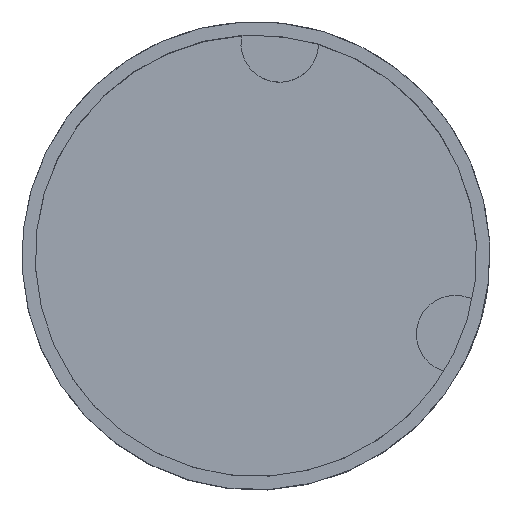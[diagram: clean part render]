
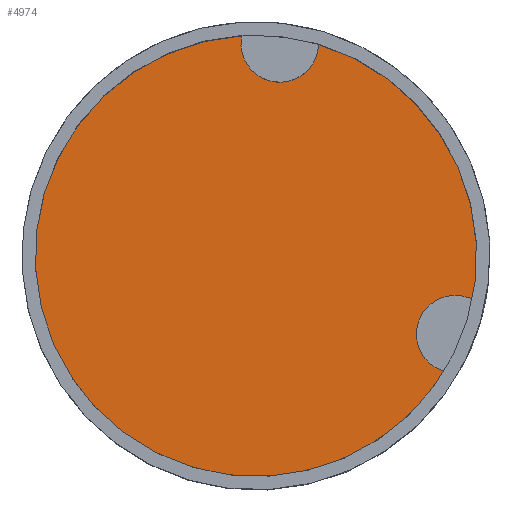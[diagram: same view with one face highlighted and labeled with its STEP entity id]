
A CAD part, top view. The second image highlights one B-rep face of the part: STEP entity #4974.
In plain terms, the highlighted planar face has unit normal (0, 0, 1) as drawn and (0, 0, -1) by its records, which use the part's own axes.
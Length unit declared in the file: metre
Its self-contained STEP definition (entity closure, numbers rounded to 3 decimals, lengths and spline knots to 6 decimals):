
#53 = VECTOR ( 'NONE', #2852, 1. ) ;
#65 = DIRECTION ( 'NONE',  ( 0., -1., 0. ) ) ;
#91 = DIRECTION ( 'NONE',  ( -0.966, -0.259, 0. ) ) ;
#116 = CARTESIAN_POINT ( 'NONE',  ( 0.0029, 0.016122, 0.0162 ) ) ;
#188 = VERTEX_POINT ( 'NONE', #2696 ) ;
#232 = ORIENTED_EDGE ( 'NONE', *, *, #4447, .F. ) ;
#291 = CARTESIAN_POINT ( 'NONE',  ( 0.0029, 0.016243, 0.0162 ) ) ;
#336 = EDGE_CURVE ( 'NONE', #1648, #1957, #2297, .T. ) ;
#416 = EDGE_CURVE ( 'NONE', #2931, #4948, #2784, .T. ) ;
#424 = VECTOR ( 'NONE', #1685, 1. ) ;
#427 = AXIS2_PLACEMENT_3D ( 'NONE', #1256, #1669, #4388 ) ;
#466 = CARTESIAN_POINT ( 'NONE',  ( 0., 0., 0.0162 ) ) ;
#488 = EDGE_CURVE ( 'NONE', #4905, #539, #2488, .T. ) ;
#502 = EDGE_CURVE ( 'NONE', #1519, #188, #1348, .T. ) ;
#523 = EDGE_CURVE ( 'NONE', #3594, #1359, #974, .T. ) ;
#533 = DIRECTION ( 'NONE',  ( 0., -1., 0. ) ) ;
#539 = VERTEX_POINT ( 'NONE', #2055 ) ;
#583 = AXIS2_PLACEMENT_3D ( 'NONE', #2065, #2027, #1987 ) ;
#673 = PLANE ( 'NONE',  #2716 ) ;
#681 = ORIENTED_EDGE ( 'NONE', *, *, #2604, .T. ) ;
#686 = ORIENTED_EDGE ( 'NONE', *, *, #4841, .F. ) ;
#745 = CARTESIAN_POINT ( 'NONE',  ( 0.0029, 0.016, 0.0162 ) ) ;
#757 = CARTESIAN_POINT ( 'NONE',  ( -0.0029, 0.016243, 0.0162 ) ) ;
#922 = ORIENTED_EDGE ( 'NONE', *, *, #488, .F. ) ;
#974 = CIRCLE ( 'NONE', #427, 0.0165 ) ;
#1003 = CARTESIAN_POINT ( 'NONE',  ( -0.0165, 0., 0.0162 ) ) ;
#1086 = DIRECTION ( 'NONE',  ( 0., 0., 1. ) ) ;
#1121 = ORIENTED_EDGE ( 'NONE', *, *, #502, .F. ) ;
#1210 = EDGE_CURVE ( 'NONE', #4948, #4359, #3331, .T. ) ;
#1256 = CARTESIAN_POINT ( 'NONE',  ( 0., 0., 0.0162 ) ) ;
#1266 = AXIS2_PLACEMENT_3D ( 'NONE', #2862, #1311, #2842 ) ;
#1284 = EDGE_CURVE ( 'NONE', #4359, #1648, #2839, .T. ) ;
#1289 = EDGE_LOOP ( 'NONE', ( #681, #922, #232, #3297, #2134, #4959, #3839, #2616, #2019, #686, #1121 ) ) ;
#1311 = DIRECTION ( 'NONE',  ( 0., 0., 1. ) ) ;
#1348 = LINE ( 'NONE', #3631, #3147 ) ;
#1359 = VERTEX_POINT ( 'NONE', #1003 ) ;
#1476 = DIRECTION ( 'NONE',  ( 0., 0., 1. ) ) ;
#1519 = VERTEX_POINT ( 'NONE', #1850 ) ;
#1549 = LINE ( 'NONE', #3511, #3240 ) ;
#1648 = VERTEX_POINT ( 'NONE', #5035 ) ;
#1651 = CARTESIAN_POINT ( 'NONE',  ( 0.0165, 0., 0.0162 ) ) ;
#1669 = DIRECTION ( 'NONE',  ( 0., 0., 1. ) ) ;
#1685 = DIRECTION ( 'NONE',  ( 0.966, 0.259, 0. ) ) ;
#1702 = CARTESIAN_POINT ( 'NONE',  ( -0.016205, -0.00134, 0.0162 ) ) ;
#1712 = FACE_OUTER_BOUND ( 'NONE', #1289, .T. ) ;
#1824 = CIRCLE ( 'NONE', #1266, 0.0165 ) ;
#1850 = CARTESIAN_POINT ( 'NONE',  ( -0.014704, -0.006942, 0.0162 ) ) ;
#1957 = VERTEX_POINT ( 'NONE', #2493 ) ;
#1987 = DIRECTION ( 'NONE',  ( -1., 0., 0. ) ) ;
#2019 = ORIENTED_EDGE ( 'NONE', *, *, #416, .F. ) ;
#2027 = DIRECTION ( 'NONE',  ( 0., 0., 1. ) ) ;
#2055 = CARTESIAN_POINT ( 'NONE',  ( -0.016205, -0.00134, 0.0162 ) ) ;
#2065 = CARTESIAN_POINT ( 'NONE',  ( 0., 0., 0.0162 ) ) ;
#2134 = ORIENTED_EDGE ( 'NONE', *, *, #4351, .T. ) ;
#2154 = CIRCLE ( 'NONE', #583, 0.0165 ) ;
#2297 = CIRCLE ( 'NONE', #2951, 0.0029 ) ;
#2318 = DIRECTION ( 'NONE',  ( 0., -1., 0. ) ) ;
#2378 = DIRECTION ( 'NONE',  ( -1., 0., 0. ) ) ;
#2445 = CARTESIAN_POINT ( 'NONE',  ( 0., 0.016, 0.0162 ) ) ;
#2488 = LINE ( 'NONE', #1702, #424 ) ;
#2493 = CARTESIAN_POINT ( 'NONE',  ( -0.0029, 0.016, 0.0162 ) ) ;
#2604 = EDGE_CURVE ( 'NONE', #1519, #539, #2952, .T. ) ;
#2616 = ORIENTED_EDGE ( 'NONE', *, *, #1210, .F. ) ;
#2696 = CARTESIAN_POINT ( 'NONE',  ( -0.014939, -0.007005, 0.0162 ) ) ;
#2716 = AXIS2_PLACEMENT_3D ( 'NONE', #2890, #1476, #3384 ) ;
#2784 = CIRCLE ( 'NONE', #3014, 0.0165 ) ;
#2830 = DIRECTION ( 'NONE',  ( 0., 0., -1. ) ) ;
#2839 = CIRCLE ( 'NONE', #4224, 0.0029 ) ;
#2842 = DIRECTION ( 'NONE',  ( -1., 0., 0. ) ) ;
#2852 = DIRECTION ( 'NONE',  ( 0., -1., 0. ) ) ;
#2862 = CARTESIAN_POINT ( 'NONE',  ( 0., 0., 0.0162 ) ) ;
#2890 = CARTESIAN_POINT ( 'NONE',  ( -0.016698, -0.016696, 0.0162 ) ) ;
#2931 = VERTEX_POINT ( 'NONE', #1651 ) ;
#2951 = AXIS2_PLACEMENT_3D ( 'NONE', #3571, #3957, #65 ) ;
#2952 = CIRCLE ( 'NONE', #3156, 0.0029 ) ;
#3014 = AXIS2_PLACEMENT_3D ( 'NONE', #466, #4725, #2378 ) ;
#3027 = DIRECTION ( 'NONE',  ( 0., -1., 0. ) ) ;
#3147 = VECTOR ( 'NONE', #91, 1. ) ;
#3156 = AXIS2_PLACEMENT_3D ( 'NONE', #3791, #1086, #3027 ) ;
#3240 = VECTOR ( 'NONE', #2318, 1. ) ;
#3297 = ORIENTED_EDGE ( 'NONE', *, *, #523, .F. ) ;
#3331 = LINE ( 'NONE', #116, #53 ) ;
#3384 = DIRECTION ( 'NONE',  ( 1., 0., 0. ) ) ;
#3511 = CARTESIAN_POINT ( 'NONE',  ( -0.0029, 0.016122, 0.0162 ) ) ;
#3571 = CARTESIAN_POINT ( 'NONE',  ( 0., 0.016, 0.0162 ) ) ;
#3594 = VERTEX_POINT ( 'NONE', #757 ) ;
#3628 = CARTESIAN_POINT ( 'NONE',  ( -0.01644, -0.001403, 0.0162 ) ) ;
#3631 = CARTESIAN_POINT ( 'NONE',  ( -0.014704, -0.006942, 0.0162 ) ) ;
#3791 = CARTESIAN_POINT ( 'NONE',  ( -0.015455, -0.004141, 0.0162 ) ) ;
#3839 = ORIENTED_EDGE ( 'NONE', *, *, #1284, .F. ) ;
#3957 = DIRECTION ( 'NONE',  ( 0., 0., -1. ) ) ;
#4224 = AXIS2_PLACEMENT_3D ( 'NONE', #2445, #2830, #533 ) ;
#4351 = EDGE_CURVE ( 'NONE', #3594, #1957, #1549, .T. ) ;
#4359 = VERTEX_POINT ( 'NONE', #745 ) ;
#4388 = DIRECTION ( 'NONE',  ( -1., 0., 0. ) ) ;
#4447 = EDGE_CURVE ( 'NONE', #1359, #4905, #2154, .T. ) ;
#4725 = DIRECTION ( 'NONE',  ( 0., 0., 1. ) ) ;
#4841 = EDGE_CURVE ( 'NONE', #188, #2931, #1824, .T. ) ;
#4905 = VERTEX_POINT ( 'NONE', #3628 ) ;
#4948 = VERTEX_POINT ( 'NONE', #291 ) ;
#4959 = ORIENTED_EDGE ( 'NONE', *, *, #336, .F. ) ;
#4974 = ADVANCED_FACE ( 'NONE', ( #1712 ), #673, .F. ) ;
#5035 = CARTESIAN_POINT ( 'NONE',  ( 0., 0.0131, 0.0162 ) ) ;
